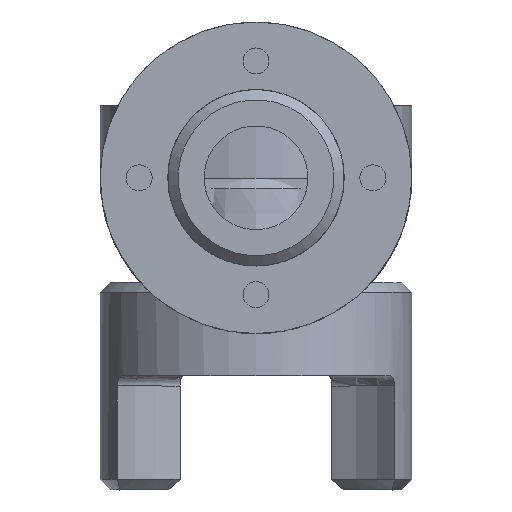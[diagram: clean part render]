
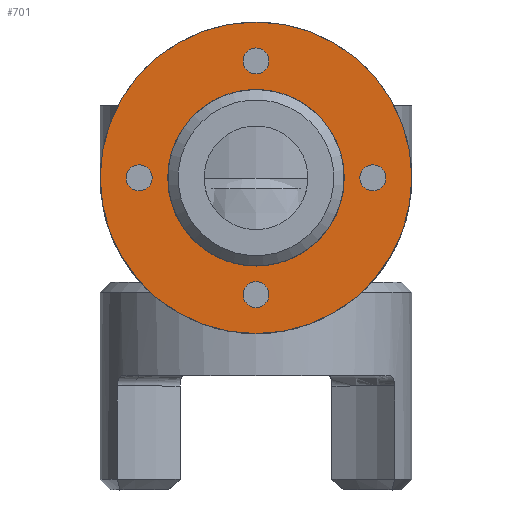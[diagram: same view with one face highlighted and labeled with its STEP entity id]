
A CAD part, top view. The second image highlights one B-rep face of the part: STEP entity #701.
In plain terms, the highlighted planar face has unit normal (0, 0, 1) as drawn and (0, -1, 0) by its records, which use the part's own axes.
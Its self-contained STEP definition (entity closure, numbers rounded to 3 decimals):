
#701 = ADVANCED_FACE( '', ( #1187, #1188, #1189, #1190, #1191, #1192 ), #1193, .F. );
#1187 = FACE_BOUND( '', #1515, .T. );
#1188 = FACE_BOUND( '', #1516, .T. );
#1189 = FACE_BOUND( '', #1517, .T. );
#1190 = FACE_BOUND( '', #1518, .T. );
#1191 = FACE_BOUND( '', #1519, .T. );
#1192 = FACE_OUTER_BOUND( '', #1520, .T. );
#1193 = PLANE( '', #1521 );
#1515 = EDGE_LOOP( '', ( #2162 ) );
#1516 = EDGE_LOOP( '', ( #2163 ) );
#1517 = EDGE_LOOP( '', ( #2164 ) );
#1518 = EDGE_LOOP( '', ( #2165 ) );
#1519 = EDGE_LOOP( '', ( #2166 ) );
#1520 = EDGE_LOOP( '', ( #2167 ) );
#1521 = AXIS2_PLACEMENT_3D( '', #2168, #2169, #2170 );
#2162 = ORIENTED_EDGE( '', *, *, #2744, .F. );
#2163 = ORIENTED_EDGE( '', *, *, #2745, .F. );
#2164 = ORIENTED_EDGE( '', *, *, #2746, .F. );
#2165 = ORIENTED_EDGE( '', *, *, #2747, .F. );
#2166 = ORIENTED_EDGE( '', *, *, #2748, .F. );
#2167 = ORIENTED_EDGE( '', *, *, #2741, .T. );
#2168 = CARTESIAN_POINT( '', ( 0., 0., 15. ) );
#2169 = DIRECTION( '', ( 0., 1., 0. ) );
#2170 = DIRECTION( '', ( 0., 0., 1. ) );
#2741 = EDGE_CURVE( '', #3155, #3155, #3156, .T. );
#2744 = EDGE_CURVE( '', #3161, #3161, #3162, .T. );
#2745 = EDGE_CURVE( '', #3163, #3163, #3164, .T. );
#2746 = EDGE_CURVE( '', #3165, #3165, #3166, .T. );
#2747 = EDGE_CURVE( '', #3167, #3167, #3168, .T. );
#2748 = EDGE_CURVE( '', #3169, #3169, #3170, .T. );
#3155 = VERTEX_POINT( '', #3565 );
#3156 = CIRCLE( '', #3566, 15. );
#3161 = VERTEX_POINT( '', #3571 );
#3162 = CIRCLE( '', #3572, 1.25 );
#3163 = VERTEX_POINT( '', #3573 );
#3164 = CIRCLE( '', #3574, 1.25 );
#3165 = VERTEX_POINT( '', #3575 );
#3166 = CIRCLE( '', #3576, 1.25 );
#3167 = VERTEX_POINT( '', #3577 );
#3168 = CIRCLE( '', #3578, 1.25 );
#3169 = VERTEX_POINT( '', #3579 );
#3170 = CIRCLE( '', #3580, 8.5 );
#3565 = CARTESIAN_POINT( '', ( 0., 0., -15. ) );
#3566 = AXIS2_PLACEMENT_3D( '', #3895, #3896, #3897 );
#3571 = CARTESIAN_POINT( '', ( -11.25, 0., 1.25 ) );
#3572 = AXIS2_PLACEMENT_3D( '', #3904, #3905, #3906 );
#3573 = CARTESIAN_POINT( '', ( -1.25, 0., -11.25 ) );
#3574 = AXIS2_PLACEMENT_3D( '', #3907, #3908, #3909 );
#3575 = CARTESIAN_POINT( '', ( 11.25, 0., -1.25 ) );
#3576 = AXIS2_PLACEMENT_3D( '', #3910, #3911, #3912 );
#3577 = CARTESIAN_POINT( '', ( 1.25, 0., 11.25 ) );
#3578 = AXIS2_PLACEMENT_3D( '', #3913, #3914, #3915 );
#3579 = CARTESIAN_POINT( '', ( 0., 0., -8.5 ) );
#3580 = AXIS2_PLACEMENT_3D( '', #3916, #3917, #3918 );
#3895 = CARTESIAN_POINT( '', ( 0., 0., 0. ) );
#3896 = DIRECTION( '', ( 0., -1., 0. ) );
#3897 = DIRECTION( '', ( 0., 0., -1. ) );
#3904 = CARTESIAN_POINT( '', ( -11.25, 0., 0. ) );
#3905 = DIRECTION( '', ( 0., -1., 0. ) );
#3906 = DIRECTION( '', ( 0., 0., 1. ) );
#3907 = CARTESIAN_POINT( '', ( 0., 0., -11.25 ) );
#3908 = DIRECTION( '', ( 0., -1., 0. ) );
#3909 = DIRECTION( '', ( -1., 0., 0. ) );
#3910 = CARTESIAN_POINT( '', ( 11.25, 0., 0. ) );
#3911 = DIRECTION( '', ( 0., -1., 0. ) );
#3912 = DIRECTION( '', ( 0., 0., -1. ) );
#3913 = CARTESIAN_POINT( '', ( 0., 0., 11.25 ) );
#3914 = DIRECTION( '', ( 0., -1., 0. ) );
#3915 = DIRECTION( '', ( 1., 0., 0. ) );
#3916 = CARTESIAN_POINT( '', ( 0., 0., 0. ) );
#3917 = DIRECTION( '', ( 0., -1., 0. ) );
#3918 = DIRECTION( '', ( 0., 0., -1. ) );
